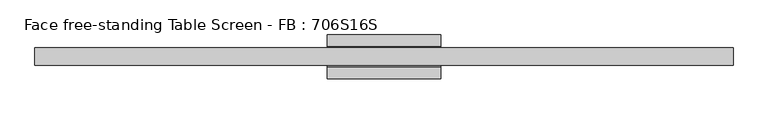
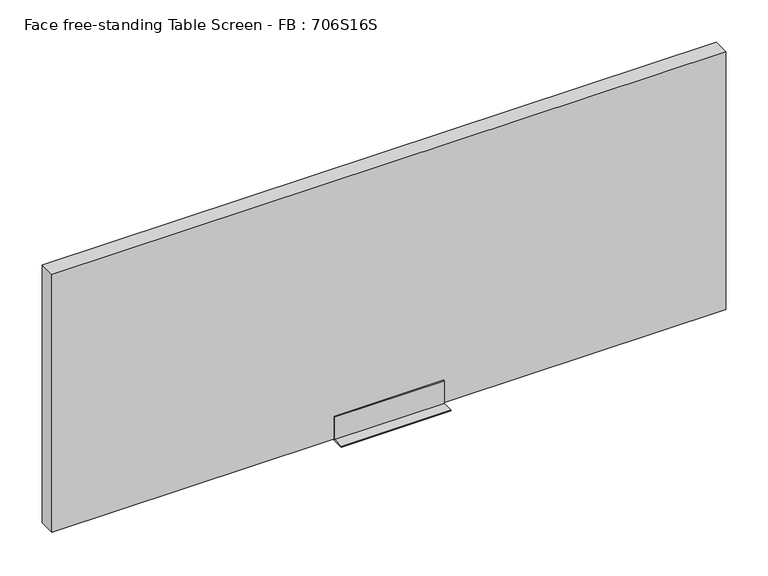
"""IFC4 building model written with IfcOpenShell, lengths in millimetres: furniture geometry, Face free-standing Table Screen - FB : 706S16S."""

from ifc_helpers import new_model, si_unit, frame, origin, place, context, project, spatial, polyline, outline, extrude, source, transform, mapped, element, save


def face_free_standing_table_screen_fb_706s16s_381274a4(model_context):
    return source(origin(), model_context, "Body", "SweptSolid", [
        extrude(outline(polyline([(-50.0, 3.0), (-22.999995, 3.0), (-23.0, 60.0), (-20.0, 60.0), (-20.0, 3.0), (20.0, 3.0), (20.0, 60.0), (23.0, 60.0), (22.999995, 3.0), (50.0, 3.0), (50.0, 0.0), (-50.0, 0.0), (-50.0, 3.0)])), frame((-130.0, 0.0, 0.0), z_axis=(1.0, 0.0, 0.0), x_axis=(0.0, 1.0, 0.0)), (0.0, 0.0, 1.0), 260.0),
        extrude(outline(polyline([(800.0, -20.0), (-800.0, -20.0), (-800.0, 20.0), (800.0, 20.0), (800.0, -20.0)])), frame((0.0, 0.0, 3.0), z_axis=(0.0, 0.0, 1.0), x_axis=(1.0, 0.0, 0.0)), (0.0, 0.0, 1.0), 647.0),
    ])


if __name__ == "__main__":
    model = new_model("IFC4")
    model_context = context("Model", 3, world=origin())
    ifc_project = project(units=[si_unit("LENGTHUNIT", "METRE", prefix="MILLI")], contexts=[model_context])
    site = spatial("IfcSite", under=ifc_project)
    building = spatial("IfcBuilding", under=site)
    placement = place(None, origin())
    face_free_standing_table_screen_fb_706s16s_shape = face_free_standing_table_screen_fb_706s16s_381274a4(model_context)
    element("IfcFurniture", 1, ObjectType="Face free-standing Table Screen - FB : 706S16S", at=placement, inside=building, context=model_context, shape_type="MappedRepresentation", body=[
        mapped(face_free_standing_table_screen_fb_706s16s_shape, transform((0.0, 0.0, 0.0), x_axis=(1.0, 0.0, 0.0), y_axis=(0.0, 1.0, 0.0), z_axis=(0.0, 0.0, 1.0))),
    ])
    save(model, "model.ifc")
